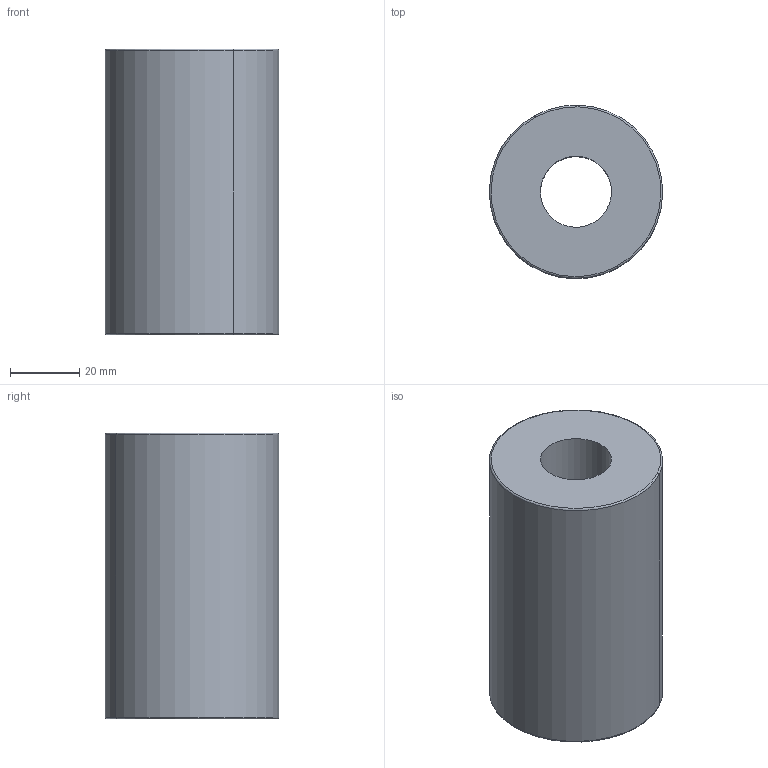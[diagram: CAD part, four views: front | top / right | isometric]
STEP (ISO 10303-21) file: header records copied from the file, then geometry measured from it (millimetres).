
FILE_DESCRIPTION(('CATIA V5 STEP Exchange'),'2;1');
FILE_NAME('\\server01\tecnico\CODICI MOVEX\3D per clienti\Sanco\12-01-2015\P20103_01.stp','2015-01-12T14:09:58+00:00',('none'),('none'),'Version 5-6 Release 2012','CATIA V5 STEP AP203','none');
FILE_SCHEMA(('CONFIG_CONTROL_DESIGN'));
Length unit declared in the file: millimetre
Products named in the file (1): S010305_02
Bounding box: 49.99 x 49.99 x 82.5 mm (x, y, z)
Volume: 54403.4 mm3; surface area: 42314.5 mm2
Topology: 1 solids, 2 shells, 148 faces, 314 edges, 172 vertices
Faces by surface type: torus 54, cylinder 40, cone 32, plane 14, bspline 8
Entity records: 4102 total; most frequent: CARTESIAN_POINT 1278, ORIENTED_EDGE 628, DIRECTION 441, EDGE_CURVE 314, AXIS2_PLACEMENT_3D 267, CIRCLE 183, VERTEX_POINT 172, EDGE_LOOP 154
